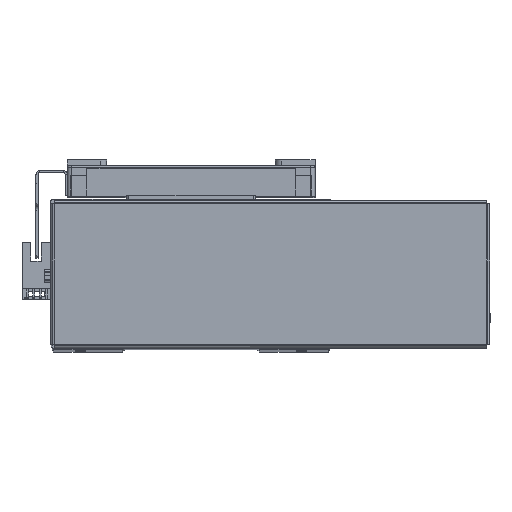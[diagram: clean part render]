
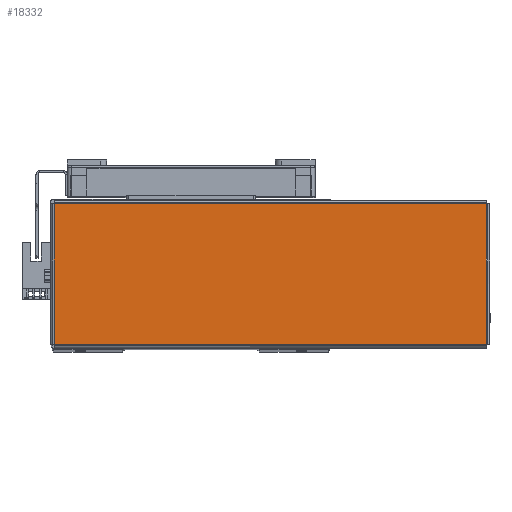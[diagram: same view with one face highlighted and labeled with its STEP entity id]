
A CAD part, top view. The second image highlights one B-rep face of the part: STEP entity #18332.
In plain terms, the highlighted planar face has unit normal (0, 0, 1) as drawn and (0, -1, 0) by its records, which use the part's own axes.
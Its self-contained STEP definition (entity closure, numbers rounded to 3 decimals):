
#1994 = CARTESIAN_POINT ( 'NONE',  ( 0., -1., 0. ) ) ;
#2005 = PLANE ( 'NONE',  #38882 ) ;
#2011 = DIRECTION ( 'NONE',  ( 0., 1., 0. ) ) ;
#2015 = DIRECTION ( 'NONE',  ( 0., 0., 1. ) ) ;
#10460 = CARTESIAN_POINT ( 'NONE',  ( 103.763, -1., 33.763 ) ) ;
#10479 = CARTESIAN_POINT ( 'NONE',  ( 103.763, -1., -33.763 ) ) ;
#10744 = CARTESIAN_POINT ( 'NONE',  ( -103.763, -1., -33.763 ) ) ;
#18332 = ADVANCED_FACE ( 'NONE', ( #34012 ), #2005, .F. ) ;
#19236 = VECTOR ( 'NONE', #26055, 1000. ) ;
#19245 = VECTOR ( 'NONE', #26121, 1000. ) ;
#19316 = LINE ( 'NONE', #26027, #19245 ) ;
#19339 = LINE ( 'NONE', #26091, #19236 ) ;
#25024 = EDGE_CURVE ( 'NONE', #28507, #28492, #34000, .T. ) ;
#25053 = EDGE_CURVE ( 'NONE', #31596, #28507, #34024, .T. ) ;
#25111 = EDGE_CURVE ( 'NONE', #60079, #31596, #19316, .T. ) ;
#25114 = EDGE_CURVE ( 'NONE', #28492, #60079, #19339, .T. ) ;
#25820 = CARTESIAN_POINT ( 'NONE',  ( 103.763, -1., -33.793 ) ) ;
#25859 = DIRECTION ( 'NONE',  ( 0., 0., 1. ) ) ;
#25897 = DIRECTION ( 'NONE',  ( 1., 0., 0. ) ) ;
#25943 = CARTESIAN_POINT ( 'NONE',  ( -103.793, -1., -33.763 ) ) ;
#26027 = CARTESIAN_POINT ( 'NONE',  ( -103.763, -1., 33.793 ) ) ;
#26055 = DIRECTION ( 'NONE',  ( -1., 0., 0. ) ) ;
#26091 = CARTESIAN_POINT ( 'NONE',  ( 103.793, -1., 33.763 ) ) ;
#26121 = DIRECTION ( 'NONE',  ( 0., 0., -1. ) ) ;
#28492 = VERTEX_POINT ( 'NONE', #10460 ) ;
#28507 = VERTEX_POINT ( 'NONE', #10479 ) ;
#29604 = EDGE_LOOP ( 'NONE', ( #59064, #60180, #59059, #59048 ) ) ;
#31596 = VERTEX_POINT ( 'NONE', #10744 ) ;
#33933 = VECTOR ( 'NONE', #25859, 1000. ) ;
#34000 = LINE ( 'NONE', #25820, #33933 ) ;
#34012 = FACE_OUTER_BOUND ( 'NONE', #29604, .T. ) ;
#34024 = LINE ( 'NONE', #25943, #35870 ) ;
#35870 = VECTOR ( 'NONE', #25897, 1000. ) ;
#38882 = AXIS2_PLACEMENT_3D ( 'NONE', #1994, #2011, #2015 ) ;
#51477 = CARTESIAN_POINT ( 'NONE',  ( -103.763, -1., 33.763 ) ) ;
#59048 = ORIENTED_EDGE ( 'NONE', *, *, #25024, .T. ) ;
#59059 = ORIENTED_EDGE ( 'NONE', *, *, #25053, .T. ) ;
#59064 = ORIENTED_EDGE ( 'NONE', *, *, #25114, .T. ) ;
#60079 = VERTEX_POINT ( 'NONE', #51477 ) ;
#60180 = ORIENTED_EDGE ( 'NONE', *, *, #25111, .T. ) ;
